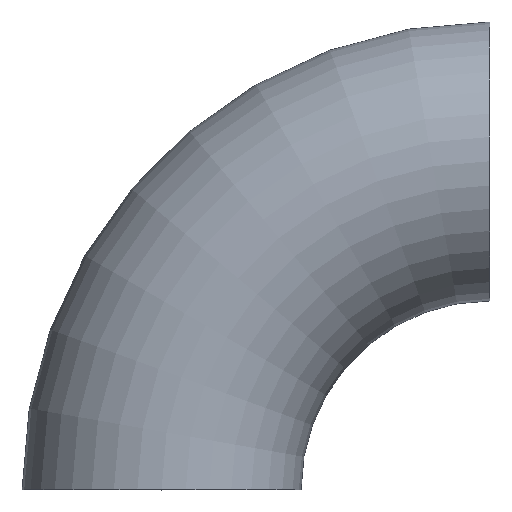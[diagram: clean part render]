
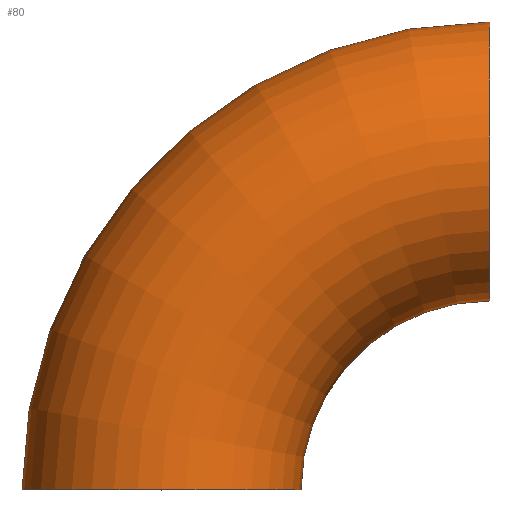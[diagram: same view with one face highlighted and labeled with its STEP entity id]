
A CAD part, top view. The second image highlights one B-rep face of the part: STEP entity #80.
In plain terms, the highlighted toroidal (fillet/blend) face has major radius 57.2 mm and minor radius 24.3 mm.
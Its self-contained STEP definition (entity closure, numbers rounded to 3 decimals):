
#20=FACE_OUTER_BOUND('',#24,.T.);
#24=EDGE_LOOP('',(#63,#64,#65,#66,#67,#68));
#34=CIRCLE('',#110,24.3);
#35=CIRCLE('',#111,24.3);
#36=CIRCLE('',#112,32.9);
#37=CIRCLE('',#113,24.3);
#38=CIRCLE('',#114,24.3);
#43=VERTEX_POINT('',#159);
#44=VERTEX_POINT('',#160);
#45=VERTEX_POINT('',#163);
#46=VERTEX_POINT('',#165);
#52=EDGE_CURVE('',#43,#44,#34,.T.);
#53=EDGE_CURVE('',#44,#43,#35,.T.);
#54=EDGE_CURVE('',#44,#45,#36,.T.);
#55=EDGE_CURVE('',#45,#46,#37,.T.);
#56=EDGE_CURVE('',#46,#45,#38,.T.);
#63=ORIENTED_EDGE('',*,*,#52,.F.);
#64=ORIENTED_EDGE('',*,*,#53,.F.);
#65=ORIENTED_EDGE('',*,*,#54,.T.);
#66=ORIENTED_EDGE('',*,*,#55,.T.);
#67=ORIENTED_EDGE('',*,*,#56,.T.);
#68=ORIENTED_EDGE('',*,*,#54,.F.);
#78=TOROIDAL_SURFACE('',#109,57.2,24.3);
#80=ADVANCED_FACE('',(#20),#78,.T.);
#109=AXIS2_PLACEMENT_3D('',#158,#131,#132);
#110=AXIS2_PLACEMENT_3D('',#161,#133,#134);
#111=AXIS2_PLACEMENT_3D('',#162,#135,#136);
#112=AXIS2_PLACEMENT_3D('',#164,#137,#138);
#113=AXIS2_PLACEMENT_3D('',#166,#139,#140);
#114=AXIS2_PLACEMENT_3D('',#167,#141,#142);
#131=DIRECTION('center_axis',(0.,0.,-1.));
#132=DIRECTION('ref_axis',(-1.,0.,0.));
#133=DIRECTION('center_axis',(1.,0.,0.));
#134=DIRECTION('ref_axis',(0.,1.,0.));
#135=DIRECTION('center_axis',(1.,0.,0.));
#136=DIRECTION('ref_axis',(0.,1.,0.));
#137=DIRECTION('center_axis',(0.,0.,1.));
#138=DIRECTION('ref_axis',(-1.,0.,0.));
#139=DIRECTION('center_axis',(0.,1.,0.));
#140=DIRECTION('ref_axis',(-1.,0.,0.));
#141=DIRECTION('center_axis',(0.,1.,0.));
#142=DIRECTION('ref_axis',(-1.,0.,0.));
#158=CARTESIAN_POINT('Origin',(0.,0.,0.));
#159=CARTESIAN_POINT('',(0.,81.5,0.));
#160=CARTESIAN_POINT('',(0.,32.9,0.));
#161=CARTESIAN_POINT('Origin',(0.,57.2,0.));
#162=CARTESIAN_POINT('Origin',(0.,57.2,0.));
#163=CARTESIAN_POINT('',(-32.9,0.,0.));
#164=CARTESIAN_POINT('Origin',(0.,0.,0.));
#165=CARTESIAN_POINT('',(-81.5,0.,0.));
#166=CARTESIAN_POINT('Origin',(-57.2,0.,0.));
#167=CARTESIAN_POINT('Origin',(-57.2,0.,0.));
